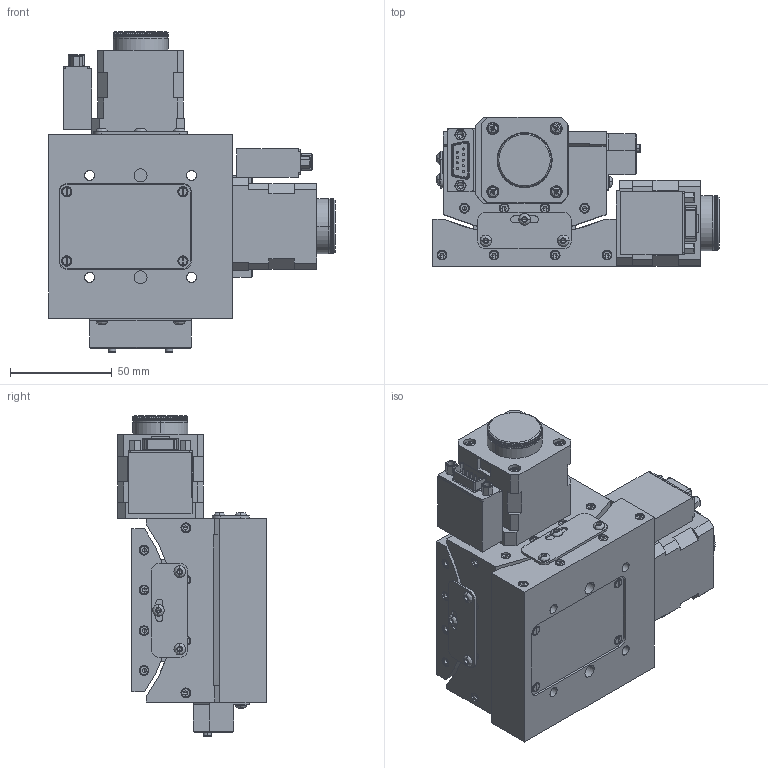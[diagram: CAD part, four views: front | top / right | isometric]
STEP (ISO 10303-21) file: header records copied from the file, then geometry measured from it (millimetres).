
FILE_DESCRIPTION (( 'STEP AP203' ), '1' );
FILE_NAME ('8MG99-80+8MG99-50.STEP', '2008-06-21T19:57:31', ( 'STANDA' ), ( '' ), 'SwSTEP 2.0', 'SolidWorks 2003240', '' );
FILE_SCHEMA (( 'CONFIG_CONTROL_DESIGN' ));
Products named in the file (1): 8MG99-80+8MG99-50
Bounding box: 140.5 x 73 x 157.3 mm (x, y, z)
Volume: 637001.4 mm3; surface area: 125265.1 mm2
Topology: 1 solids, 81 shells, 3614 faces, 9325 edges, 5932 vertices
Faces by surface type: plane 1565, cylinder 1484, cone 323, bspline 242
Entity records: 120397 total; most frequent: CARTESIAN_POINT 34377, ORIENTED_EDGE 18338, DIRECTION 17631, EDGE_CURVE 9169, AXIS2_PLACEMENT_3D 6746, VERTEX_POINT 5932, LINE 4139, VECTOR 4139
